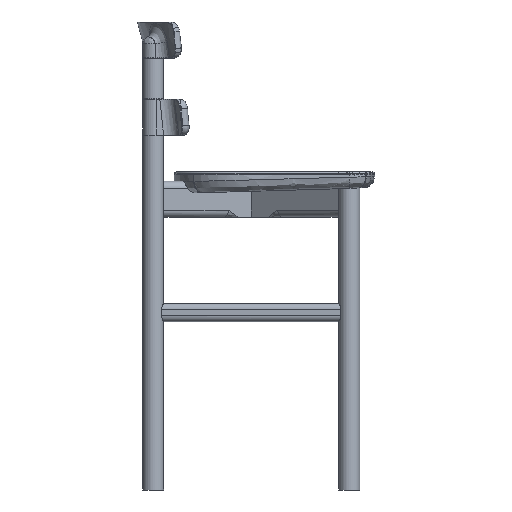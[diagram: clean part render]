
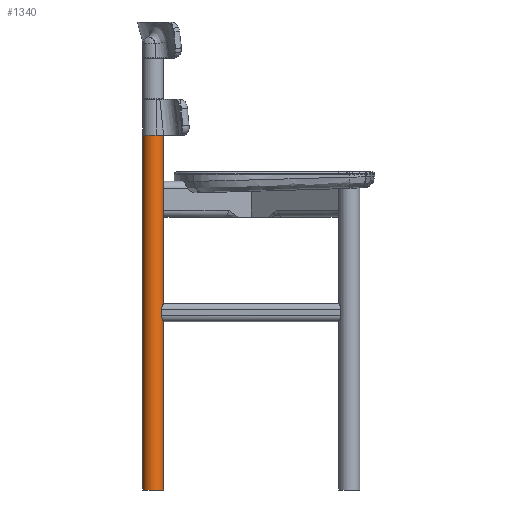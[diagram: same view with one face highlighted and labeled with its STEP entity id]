
A CAD part, left-side view. The second image highlights one B-rep face of the part: STEP entity #1340.
In plain terms, the highlighted cylindrical face has radius 21.5 mm (diameter 43 mm), a partial arc.
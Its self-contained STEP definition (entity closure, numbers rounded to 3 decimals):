
#253=TRIMMED_CURVE($,#639,(#79517),(#79518),.T.,.CARTESIAN.);
#255=TRIMMED_CURVE($,#641,(#79523),(#79524),.T.,.CARTESIAN.);
#639=CIRCLE('',#7513,21.5);
#641=CIRCLE('',#7515,21.5);
#1340=ADVANCED_FACE('',(#1805),#6954,.T.);
#1805=FACE_OUTER_BOUND('',#2271,.T.);
#2271=EDGE_LOOP('',(#3558,#3559,#3560,#3561));
#3558=ORIENTED_EDGE('',*,*,#5107,.F.);
#3559=ORIENTED_EDGE('',*,*,#5106,.F.);
#3560=ORIENTED_EDGE('',*,*,#5108,.T.);
#3561=ORIENTED_EDGE('',*,*,#5104,.T.);
#5104=EDGE_CURVE('',#6579,#6578,#253,.T.);
#5106=EDGE_CURVE('',#6581,#6580,#255,.T.);
#5107=EDGE_CURVE('',#6580,#6578,#5916,.T.);
#5108=EDGE_CURVE('',#6581,#6579,#5917,.T.);
#5916=B_SPLINE_CURVE_WITH_KNOTS('',1,(#79525,#79526),.UNSPECIFIED.,.F.,
 .F.,(2,2),(0.,735.),.UNSPECIFIED.);
#5917=B_SPLINE_CURVE_WITH_KNOTS('',1,(#79527,#79528),.UNSPECIFIED.,.F.,
 .F.,(2,2),(0.,735.),.UNSPECIFIED.);
#6578=VERTEX_POINT('',#79509);
#6579=VERTEX_POINT('',#79510);
#6580=VERTEX_POINT('',#79511);
#6581=VERTEX_POINT('',#79512);
#6954=CYLINDRICAL_SURFACE('',#7510,21.5);
#7510=AXIS2_PLACEMENT_3D('',#79507,#8331,$);
#7513=AXIS2_PLACEMENT_3D($,#79516,#8335,#8336);
#7515=AXIS2_PLACEMENT_3D($,#79522,#8339,#8340);
#8331=DIRECTION('',(0.,0.,-1.));
#8335=DIRECTION('',(0.,0.,1.));
#8336=DIRECTION('',(0.,1.,0.));
#8339=DIRECTION('',(0.,0.,1.));
#8340=DIRECTION('',(0.,1.,0.));
#79507=CARTESIAN_POINT('',(-168.902,478.797,367.5));
#79509=CARTESIAN_POINT('',(-168.902,457.297,0.));
#79510=CARTESIAN_POINT('',(-168.902,500.297,0.));
#79511=CARTESIAN_POINT('',(-168.902,457.297,735.));
#79512=CARTESIAN_POINT('',(-168.902,500.297,735.));
#79516=CARTESIAN_POINT('',(-168.902,478.797,0.));
#79517=CARTESIAN_POINT('',(-168.902,500.297,0.));
#79518=CARTESIAN_POINT('',(-168.902,457.297,0.));
#79522=CARTESIAN_POINT('',(-168.902,478.797,735.));
#79523=CARTESIAN_POINT('',(-168.902,500.297,735.));
#79524=CARTESIAN_POINT('',(-168.902,457.297,735.));
#79525=CARTESIAN_POINT('',(-168.902,457.297,735.));
#79526=CARTESIAN_POINT('',(-168.902,457.297,0.));
#79527=CARTESIAN_POINT('',(-168.902,500.297,735.));
#79528=CARTESIAN_POINT('',(-168.902,500.297,0.));
